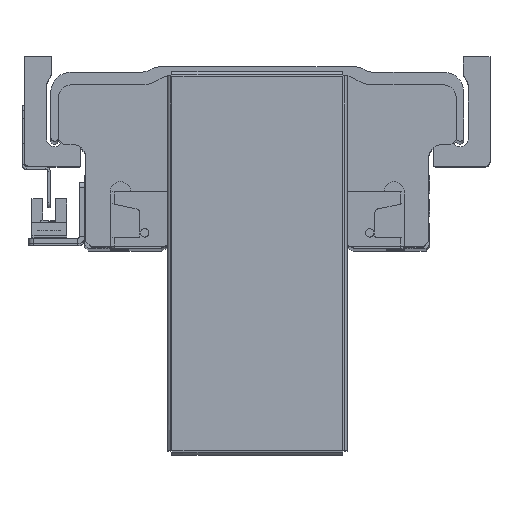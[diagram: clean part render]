
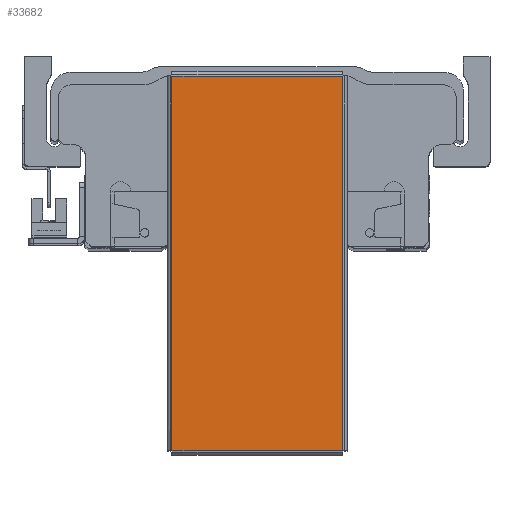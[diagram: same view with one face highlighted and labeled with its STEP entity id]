
A CAD part, top view. The second image highlights one B-rep face of the part: STEP entity #33682.
In plain terms, the highlighted planar face has unit normal (0, 0, 1) as drawn and (0, -1, 0) by its records, which use the part's own axes.
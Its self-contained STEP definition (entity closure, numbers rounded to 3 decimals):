
#9657 = EDGE_CURVE ( 'NONE', #16040, #16073, #21945, .T. ) ;
#9718 = EDGE_CURVE ( 'NONE', #16082, #16040, #21980, .T. ) ;
#9740 = EDGE_CURVE ( 'NONE', #16093, #16082, #22031, .T. ) ;
#9895 = EDGE_CURVE ( 'NONE', #16073, #16093, #20960, .T. ) ;
#16040 = VERTEX_POINT ( 'NONE', #36089 ) ;
#16073 = VERTEX_POINT ( 'NONE', #36128 ) ;
#16082 = VERTEX_POINT ( 'NONE', #36117 ) ;
#16093 = VERTEX_POINT ( 'NONE', #34526 ) ;
#20914 = VECTOR ( 'NONE', #22174, 1000. ) ;
#20960 = LINE ( 'NONE', #22162, #20914 ) ;
#21945 = LINE ( 'NONE', #28647, #21962 ) ;
#21962 = VECTOR ( 'NONE', #28665, 1000. ) ;
#21980 = LINE ( 'NONE', #28721, #21986 ) ;
#21986 = VECTOR ( 'NONE', #28725, 1000. ) ;
#22031 = LINE ( 'NONE', #43685, #22039 ) ;
#22039 = VECTOR ( 'NONE', #43686, 1000. ) ;
#22162 = CARTESIAN_POINT ( 'NONE',  ( 73.293, -1., 33.363 ) ) ;
#22174 = DIRECTION ( 'NONE',  ( -1., 0., 0. ) ) ;
#24153 = ORIENTED_EDGE ( 'NONE', *, *, #9895, .T. ) ;
#24181 = ORIENTED_EDGE ( 'NONE', *, *, #9740, .T. ) ;
#24188 = ORIENTED_EDGE ( 'NONE', *, *, #9718, .T. ) ;
#24210 = ORIENTED_EDGE ( 'NONE', *, *, #9657, .T. ) ;
#25686 = EDGE_LOOP ( 'NONE', ( #24153, #24181, #24188, #24210 ) ) ;
#28647 = CARTESIAN_POINT ( 'NONE',  ( 73.263, -1., -33.393 ) ) ;
#28665 = DIRECTION ( 'NONE',  ( 0., 0., 1. ) ) ;
#28721 = CARTESIAN_POINT ( 'NONE',  ( -73.293, -1., -33.363 ) ) ;
#28725 = DIRECTION ( 'NONE',  ( 1., 0., 0. ) ) ;
#33682 = ADVANCED_FACE ( 'NONE', ( #45691 ), #46684, .F. ) ;
#34310 = AXIS2_PLACEMENT_3D ( 'NONE', #46661, #46658, #46663 ) ;
#34526 = CARTESIAN_POINT ( 'NONE',  ( -73.263, -1., 33.363 ) ) ;
#36089 = CARTESIAN_POINT ( 'NONE',  ( 73.263, -1., -33.363 ) ) ;
#36117 = CARTESIAN_POINT ( 'NONE',  ( -73.263, -1., -33.363 ) ) ;
#36128 = CARTESIAN_POINT ( 'NONE',  ( 73.263, -1., 33.363 ) ) ;
#43685 = CARTESIAN_POINT ( 'NONE',  ( -73.263, -1., 33.393 ) ) ;
#43686 = DIRECTION ( 'NONE',  ( 0., 0., -1. ) ) ;
#45691 = FACE_OUTER_BOUND ( 'NONE', #25686, .T. ) ;
#46658 = DIRECTION ( 'NONE',  ( 0., 1., 0. ) ) ;
#46661 = CARTESIAN_POINT ( 'NONE',  ( 0., -1., 0. ) ) ;
#46663 = DIRECTION ( 'NONE',  ( 0., 0., 1. ) ) ;
#46684 = PLANE ( 'NONE',  #34310 ) ;
